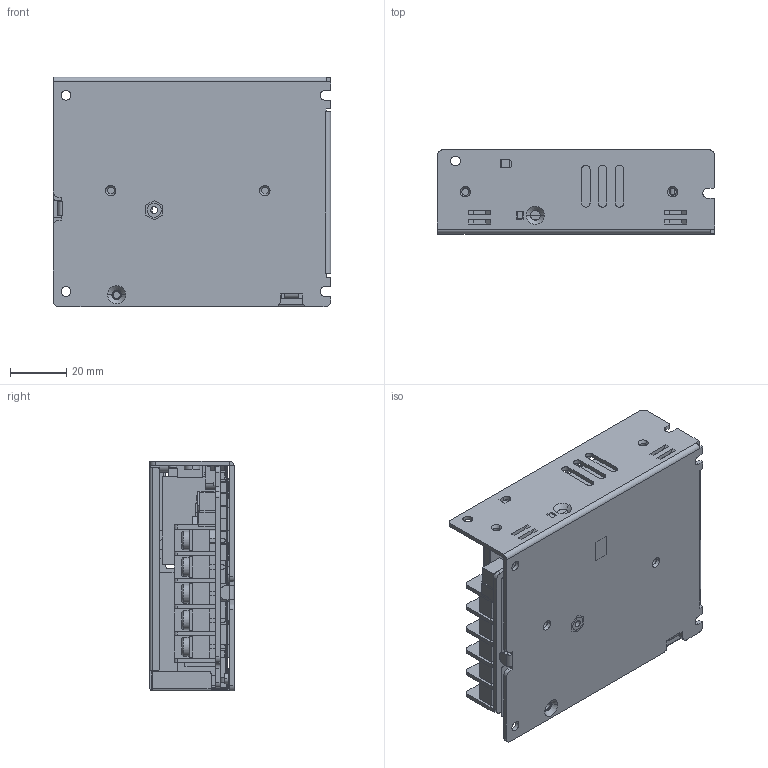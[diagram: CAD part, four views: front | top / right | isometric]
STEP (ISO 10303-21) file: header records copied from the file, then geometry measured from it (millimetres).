
FILE_DESCRIPTION((''),'2;1');
FILE_NAME('LPD-35-12','2022-08-19T13:57:38',('huangxiufeng'),(''),'CREO PARAMETRIC BY PTC INC, 2017260','CREO PARAMETRIC BY PTC INC, 2017260','');
FILE_SCHEMA(('AUTOMOTIVE_DESIGN { 1 0 10303 214 1 1 1 1 }'));
Products named in the file (1): LPD-35-12
Bounding box: 99 x 30 x 82 mm (x, y, z)
Surface area: 97337.1 mm2 (no closed solid volume)
Topology: 0 solids, 109 shells, 1722 faces, 4991 edges, 3288 vertices
Faces by surface type: plane 1007, cylinder 656, cone 25, bspline 20, torus 14
Entity records: 66903 total; most frequent: CARTESIAN_POINT 11154, DIRECTION 9766, ORIENTED_EDGE 9002, EDGE_CURVE 4991, VECTOR 3474, LINE 3474, VERTEX_POINT 3288, AXIS2_PLACEMENT_3D 3146
